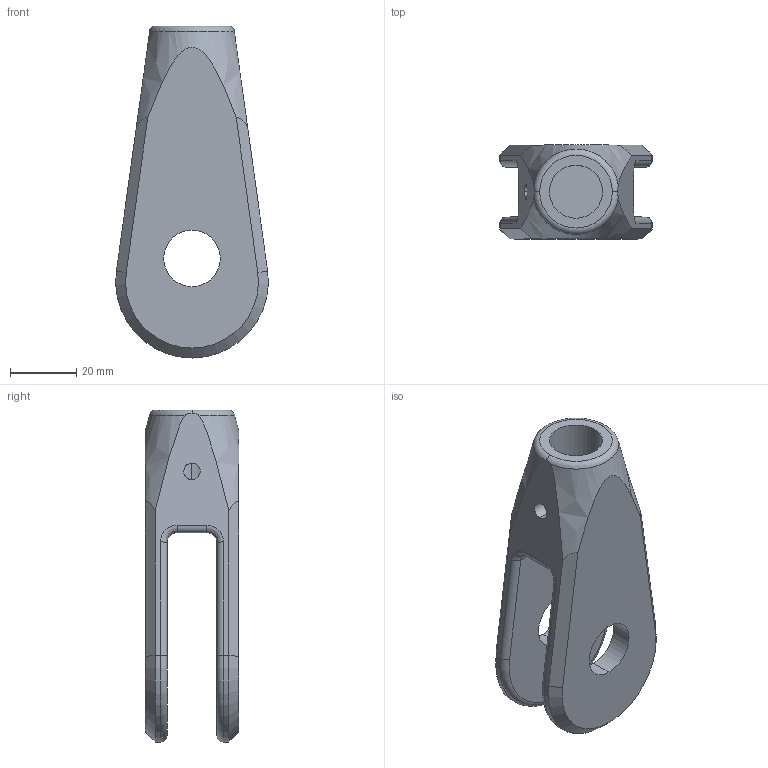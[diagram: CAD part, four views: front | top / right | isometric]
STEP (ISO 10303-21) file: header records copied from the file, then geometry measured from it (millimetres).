
FILE_DESCRIPTION (( 'STEP AP203' ), '1' );
FILE_NAME ('Gabelkopf M16.STEP', '2018-02-20T06:35:36', ( 'install' ), ( 'Hewlett-Packard Company' ), 'SwSTEP 2.0', 'SolidWorks 2017', '' );
FILE_SCHEMA (( 'CONFIG_CONTROL_DESIGN' ));
Length unit declared in the file: millimetre
Products named in the file (1): Gabelkopf M16
Bounding box: 45.98 x 28.2 x 100 mm (x, y, z)
Volume: 50155.2 mm3; surface area: 17259.8 mm2
Topology: 1 solids, 1 shells, 47 faces, 115 edges, 70 vertices
Faces by surface type: cylinder 20, plane 13, cone 5, torus 5, bspline 4
Entity records: 1831 total; most frequent: CARTESIAN_POINT 679, ORIENTED_EDGE 230, DIRECTION 222, EDGE_CURVE 115, AXIS2_PLACEMENT_3D 89, VERTEX_POINT 70, EDGE_LOOP 53, FACE_OUTER_BOUND 47
